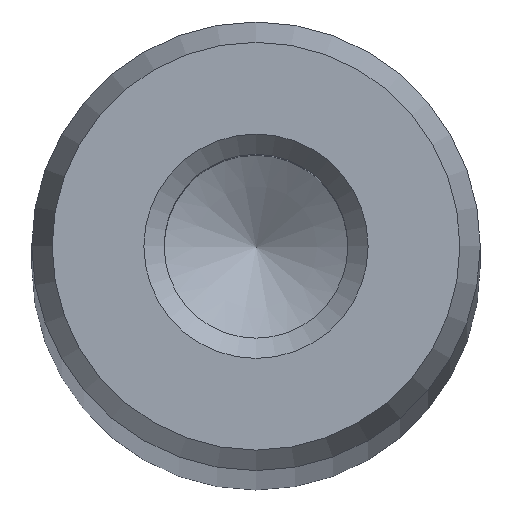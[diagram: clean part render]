
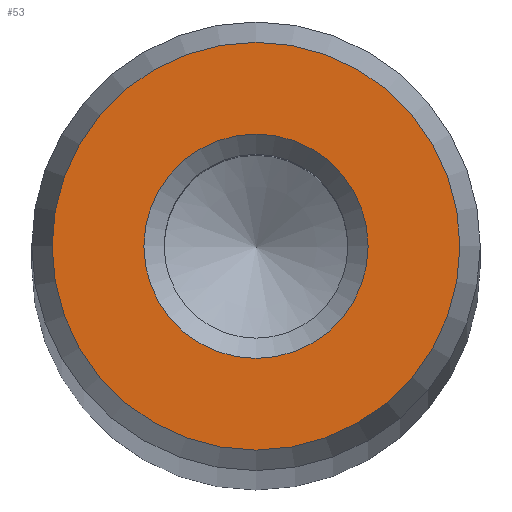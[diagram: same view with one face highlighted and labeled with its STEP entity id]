
A CAD part, top view. The second image highlights one B-rep face of the part: STEP entity #53.
In plain terms, the highlighted planar face has unit normal (0, 0, 1).
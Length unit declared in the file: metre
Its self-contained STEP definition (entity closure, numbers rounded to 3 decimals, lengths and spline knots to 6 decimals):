
#53 = ADVANCED_FACE( '', ( #112, #113 ), #114, .T. );
#112 = FACE_OUTER_BOUND( '', #171, .T. );
#113 = FACE_BOUND( '', #172, .T. );
#114 = PLANE( '', #173 );
#171 = EDGE_LOOP( '', ( #240 ) );
#172 = EDGE_LOOP( '', ( #241 ) );
#173 = AXIS2_PLACEMENT_3D( '', #242, #243, #244 );
#240 = ORIENTED_EDGE( '', *, *, #290, .T. );
#241 = ORIENTED_EDGE( '', *, *, #291, .T. );
#242 = CARTESIAN_POINT( '', ( 0., 0., 0.299 ) );
#243 = DIRECTION( '', ( 0., 0., 1. ) );
#244 = DIRECTION( '', ( 1., 0., 0. ) );
#290 = EDGE_CURVE( '', #325, #325, #326, .T. );
#291 = EDGE_CURVE( '', #327, #327, #328, .T. );
#325 = VERTEX_POINT( '', #362 );
#326 = CIRCLE( '', #363, 0.005454 );
#327 = VERTEX_POINT( '', #364 );
#328 = CIRCLE( '', #365, 0.003 );
#362 = CARTESIAN_POINT( '', ( 0.005454, 0., 0.299 ) );
#363 = AXIS2_PLACEMENT_3D( '', #400, #401, #402 );
#364 = CARTESIAN_POINT( '', ( 0.003, 0., 0.299 ) );
#365 = AXIS2_PLACEMENT_3D( '', #403, #404, #405 );
#400 = CARTESIAN_POINT( '', ( 0., 0., 0.299 ) );
#401 = DIRECTION( '', ( 0., 0., 1. ) );
#402 = DIRECTION( '', ( 1., 0., 0. ) );
#403 = CARTESIAN_POINT( '', ( 0., 0., 0.299 ) );
#404 = DIRECTION( '', ( 0., 0., -1. ) );
#405 = DIRECTION( '', ( 1., 0., 0. ) );
